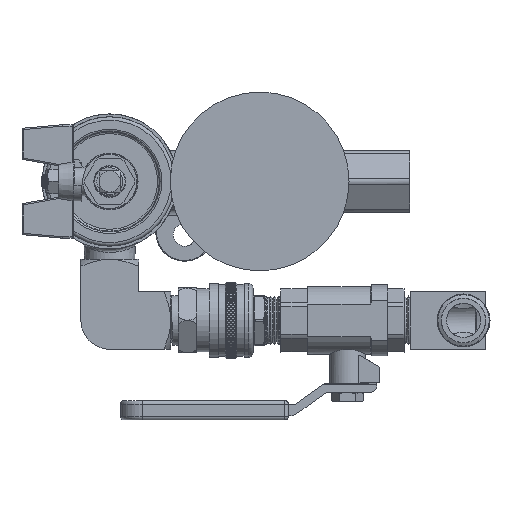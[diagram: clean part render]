
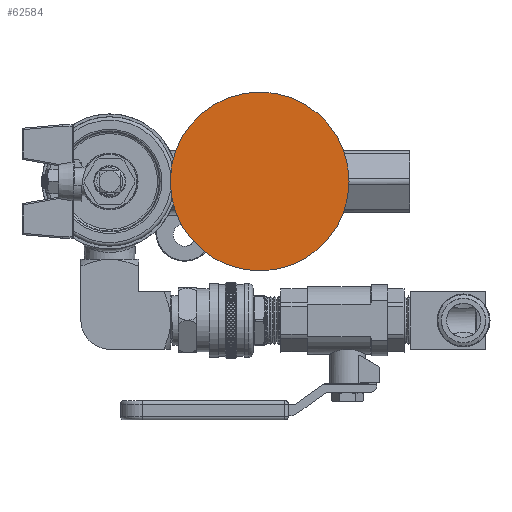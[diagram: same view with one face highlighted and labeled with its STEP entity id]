
A CAD part, front view. The second image highlights one B-rep face of the part: STEP entity #62584.
In plain terms, the highlighted planar face has unit normal (0, -1, 0).
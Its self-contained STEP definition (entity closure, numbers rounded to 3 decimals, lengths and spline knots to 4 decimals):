
#5214=PLANE('',#68698);
#8453=FACE_OUTER_BOUND('',#12168,.T.);
#12168=EDGE_LOOP('',(#52313));
#23707=CIRCLE('',#68699,1.55);
#28334=VERTEX_POINT('',#111407);
#36452=EDGE_CURVE('',#28334,#28334,#23707,.T.);
#52313=ORIENTED_EDGE('',*,*,#36452,.T.);
#62584=ADVANCED_FACE('',(#8453),#5214,.T.);
#68698=AXIS2_PLACEMENT_3D('',#111406,#85124,#85125);
#68699=AXIS2_PLACEMENT_3D('',#111408,#85126,#85127);
#85124=DIRECTION('center_axis',(0.,-1.,0.));
#85125=DIRECTION('ref_axis',(1.,0.,0.));
#85126=DIRECTION('center_axis',(0.,-1.,0.));
#85127=DIRECTION('ref_axis',(-1.,0.,0.));
#111406=CARTESIAN_POINT('Origin',(2.6,-1.906,0.));
#111407=CARTESIAN_POINT('',(4.15,-1.906,0.));
#111408=CARTESIAN_POINT('Origin',(2.6,-1.906,0.));
